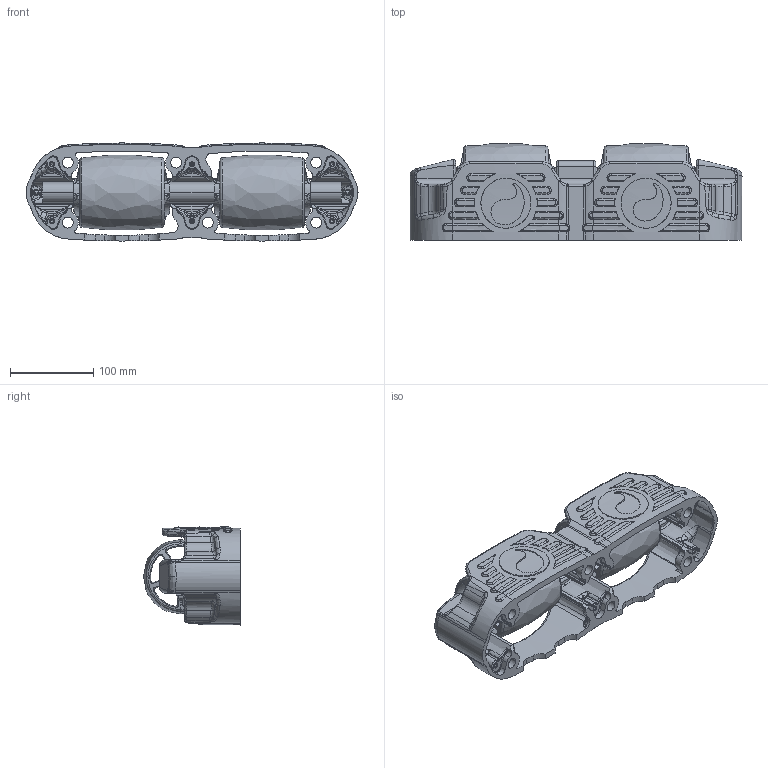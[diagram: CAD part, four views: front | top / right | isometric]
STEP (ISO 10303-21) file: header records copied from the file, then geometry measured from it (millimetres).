
FILE_DESCRIPTION((''),'2;1');
FILE_NAME('50081001_ASM','2020-07-02T',('archi19'),('POMMIER'),'PRO/ENGINEER BY PARAMETRIC TECHNOLOGY CORPORATION, 2011490','PRO/ENGINEER BY PARAMETRIC TECHNOLOGY CORPORATION, 2011490','');
FILE_SCHEMA(('CONFIG_CONTROL_DESIGN'));
Length unit declared in the file: millimetre
Products named in the file (4): 50081061-OUTIL; 50080034-3110811AX; 50080023; 50081001_ASM
Assembly tree (4 placements, depth 2):
  50081001_ASM
    50081061-OUTIL
    50080034-3110811AX
    50080023  x2
Bounding box: 398 x 116.13 x 117.5 mm (x, y, z)
Volume: 1464219.8 mm3; surface area: 420414.8 mm2
Topology: 6 solids, 6 shells, 1622 faces, 3981 edges, 2353 vertices
Faces by surface type: bspline 676, cylinder 362, torus 292, plane 194, cone 80, sphere 10, extrusion 8
Entity records: 73267 total; most frequent: CARTESIAN_POINT 42274, ORIENTED_EDGE 7386, DIRECTION 5394, EDGE_CURVE 3693, AXIS2_PLACEMENT_3D 2390, VERTEX_POINT 2185, B_SPLINE_CURVE_WITH_KNOTS 1593, EDGE_LOOP 1558
